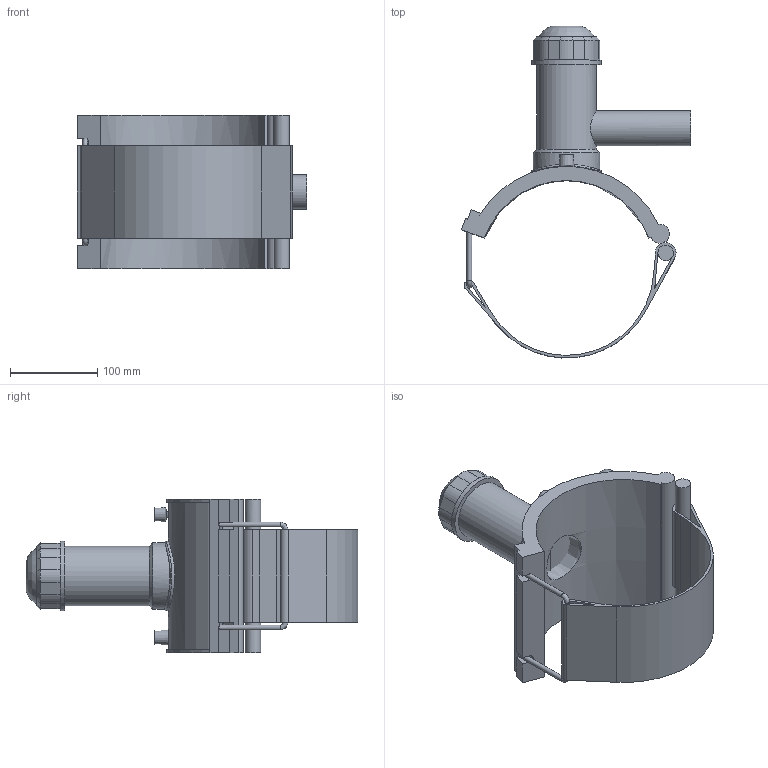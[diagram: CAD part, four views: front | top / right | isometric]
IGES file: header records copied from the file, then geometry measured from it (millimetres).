
Global section: file name: 496304200040.ipt; native system: Autodesk Inventor 2015; preprocessor: unknown; author: KIM; date: 20190124.131144; units: millimetre
Bounding box: 262.28 x 379.84 x 176 mm (x, y, z)
Volume: 1298719.4 mm3; surface area: 313220.6 mm2
Topology: 2 solids, 2 shells, 121 faces, 301 edges, 191 vertices
Faces by surface type: plane 68, cylinder 29, revolution 12, cone 11, bspline 1
Full cylindrical faces by diameter (mm): 4 x2, 5.6 x2, 17.692 x1, 40 x1, 68 x1, 76 x1, 80 x2
